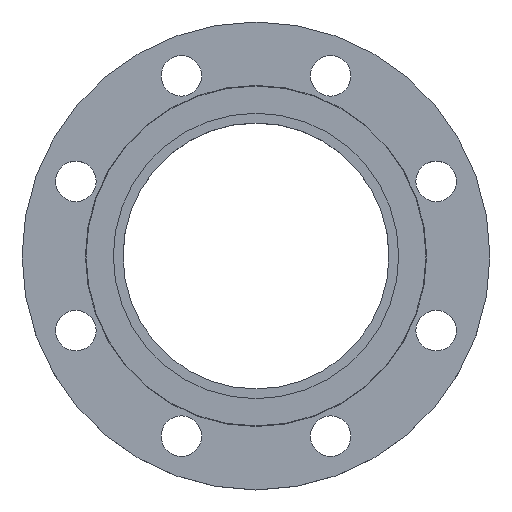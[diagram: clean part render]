
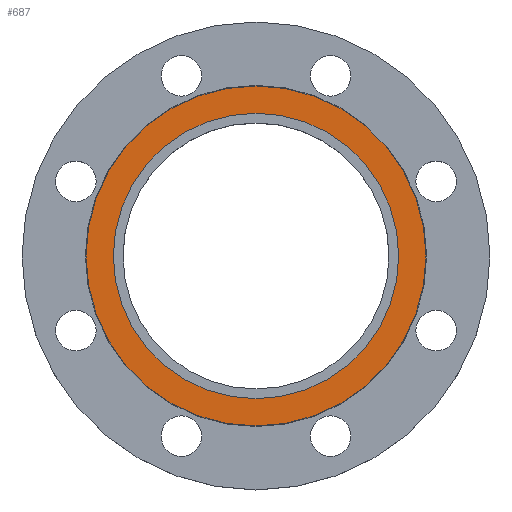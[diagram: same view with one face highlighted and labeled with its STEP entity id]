
A CAD part, top view. The second image highlights one B-rep face of the part: STEP entity #687.
In plain terms, the highlighted planar face has unit normal (0, 0, 1).
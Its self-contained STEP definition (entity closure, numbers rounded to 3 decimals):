
#127 = DIRECTION ( 'NONE',  ( -1., 0., 0. ) ) ;
#142 = DIRECTION ( 'NONE',  ( -1., 0., 0. ) ) ;
#151 = DIRECTION ( 'NONE',  ( 0., 0., -1. ) ) ;
#159 = CARTESIAN_POINT ( 'NONE',  ( 0., 0., 0. ) ) ;
#220 = CARTESIAN_POINT ( 'NONE',  ( -91.5, 0., 0. ) ) ;
#241 = EDGE_LOOP ( 'NONE', ( #950, #951 ) ) ;
#248 = AXIS2_PLACEMENT_3D ( 'NONE', #346, #345, #458 ) ;
#255 = AXIS2_PLACEMENT_3D ( 'NONE', #367, #377, #342 ) ;
#277 = CIRCLE ( 'NONE', #248, 91.5 ) ;
#291 = EDGE_LOOP ( 'NONE', ( #945, #947 ) ) ;
#324 = CARTESIAN_POINT ( 'NONE',  ( -109., 0., 0. ) ) ;
#342 = DIRECTION ( 'NONE',  ( 1., 0., 0. ) ) ;
#345 = DIRECTION ( 'NONE',  ( 0., 0., -1. ) ) ;
#346 = CARTESIAN_POINT ( 'NONE',  ( 0., 0., 0. ) ) ;
#359 = PLANE ( 'NONE',  #255 ) ;
#367 = CARTESIAN_POINT ( 'NONE',  ( 0., 0., 0. ) ) ;
#377 = DIRECTION ( 'NONE',  ( 0., 0., 1. ) ) ;
#385 = DIRECTION ( 'NONE',  ( 0., 0., -1. ) ) ;
#409 = FACE_OUTER_BOUND ( 'NONE', #291, .T. ) ;
#420 = FACE_BOUND ( 'NONE', #241, .T. ) ;
#432 = CIRCLE ( 'NONE', #450, 91.5 ) ;
#450 = AXIS2_PLACEMENT_3D ( 'NONE', #159, #151, #142 ) ;
#458 = DIRECTION ( 'NONE',  ( -1., 0., 0. ) ) ;
#587 = CARTESIAN_POINT ( 'NONE',  ( 0., 0., 0. ) ) ;
#594 = CARTESIAN_POINT ( 'NONE',  ( 91.5, 0., 0. ) ) ;
#651 = CARTESIAN_POINT ( 'NONE',  ( 109., 0., 0. ) ) ;
#673 = DIRECTION ( 'NONE',  ( -1., 0., 0. ) ) ;
#678 = EDGE_CURVE ( 'NONE', #1025, #1094, #277, .T. ) ;
#687 = ADVANCED_FACE ( 'NONE', ( #409, #420 ), #359, .T. ) ;
#697 = AXIS2_PLACEMENT_3D ( 'NONE', #1063, #385, #673 ) ;
#705 = EDGE_CURVE ( 'NONE', #1094, #1025, #432, .T. ) ;
#758 = VERTEX_POINT ( 'NONE', #651 ) ;
#795 = DIRECTION ( 'NONE',  ( 0., 0., -1. ) ) ;
#797 = AXIS2_PLACEMENT_3D ( 'NONE', #587, #795, #127 ) ;
#818 = CIRCLE ( 'NONE', #797, 109. ) ;
#945 = ORIENTED_EDGE ( 'NONE', *, *, #1029, .F. ) ;
#947 = ORIENTED_EDGE ( 'NONE', *, *, #953, .F. ) ;
#950 = ORIENTED_EDGE ( 'NONE', *, *, #678, .T. ) ;
#951 = ORIENTED_EDGE ( 'NONE', *, *, #705, .T. ) ;
#953 = EDGE_CURVE ( 'NONE', #758, #1066, #990, .T. ) ;
#990 = CIRCLE ( 'NONE', #697, 109. ) ;
#1025 = VERTEX_POINT ( 'NONE', #220 ) ;
#1029 = EDGE_CURVE ( 'NONE', #1066, #758, #818, .T. ) ;
#1063 = CARTESIAN_POINT ( 'NONE',  ( 0., 0., 0. ) ) ;
#1066 = VERTEX_POINT ( 'NONE', #324 ) ;
#1094 = VERTEX_POINT ( 'NONE', #594 ) ;
